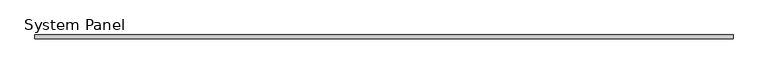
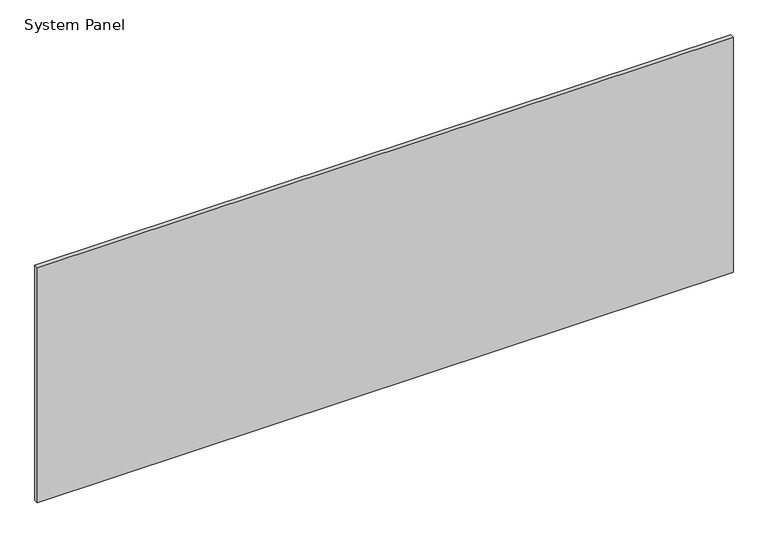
"""IFC4 building model written with IfcOpenShell, lengths in millimetres: plate geometry, System Panel : GUARDA-CORPO DE VIDRO TEMPERADO LAMINADO LISO 16 mm."""

from ifc_helpers import new_model, si_unit, origin, origin_with_axes, place, context, project, spatial, polyline, outline, extrude, source, transform, mapped, element, save


def system_panel_a2d2ccff(model_context):
    return source(origin(), model_context, "Body", "SweptSolid", [
        extrude(outline(polyline([(1400.0, -8.0), (-1400.0, -8.0), (-1400.0, 8.0), (1400.0, 8.0), (1400.0, -8.0)])), origin_with_axes(), (0.0, 0.0, 1.0), 1000.0),
    ])


if __name__ == "__main__":
    model = new_model("IFC4")
    model_context = context("Model", 3, world=origin())
    ifc_project = project(units=[si_unit("LENGTHUNIT", "METRE", prefix="MILLI")], contexts=[model_context])
    site = spatial("IfcSite", under=ifc_project)
    building = spatial("IfcBuilding", under=site)
    placement = place(None, origin())
    system_panel_shape = system_panel_a2d2ccff(model_context)
    element("IfcPlate", 1, ObjectType="System Panel : GUARDA-CORPO DE VIDRO TEMPERADO LAMINADO LISO 16 mm", at=placement, inside=building, context=model_context, shape_type="MappedRepresentation", body=[
        mapped(system_panel_shape, transform((0.0, 0.0, 0.0), x_axis=(1.0, 0.0, 0.0), y_axis=(0.0, 1.0, 0.0), z_axis=(0.0, 0.0, 1.0))),
    ])
    save(model, "model.ifc")
